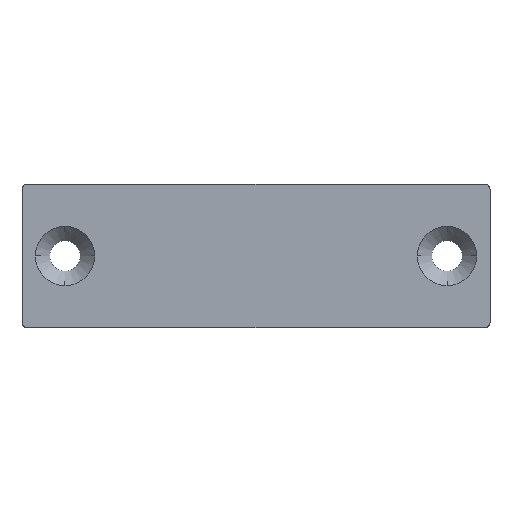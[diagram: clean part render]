
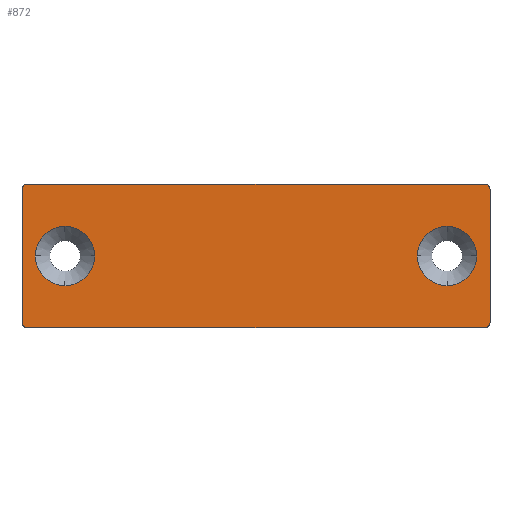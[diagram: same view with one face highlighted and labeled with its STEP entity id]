
A CAD part, top view. The second image highlights one B-rep face of the part: STEP entity #872.
In plain terms, the highlighted planar face has unit normal (0, 0, 1).
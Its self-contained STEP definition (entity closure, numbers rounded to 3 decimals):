
#216=CARTESIAN_POINT('',(-3.1,20.0,2.0));
#217=VERTEX_POINT('',#216);
#233=CARTESIAN_POINT('',(0.,23.1,2.0));
#234=VERTEX_POINT('',#233);
#241=CARTESIAN_POINT('',(0.,20.0,2.0));
#242=DIRECTION('',(0.0,0.0,-1.0));
#243=DIRECTION('',(0.0,1.0,0.0));
#244=AXIS2_PLACEMENT_3D('',#241,#242,#243);
#245=CIRCLE('',#244,3.1);
#246=EDGE_CURVE('',#217,#234,#245,.T.);
#258=CARTESIAN_POINT('',(-3.1,-20.0,2.0));
#259=VERTEX_POINT('',#258);
#275=CARTESIAN_POINT('',(0.,-16.9,2.0));
#276=VERTEX_POINT('',#275);
#283=CARTESIAN_POINT('',(0.,-20.0,2.0));
#284=DIRECTION('',(0.0,0.0,-1.0));
#285=DIRECTION('',(0.0,1.0,0.0));
#286=AXIS2_PLACEMENT_3D('',#283,#284,#285);
#287=CIRCLE('',#286,3.1);
#288=EDGE_CURVE('',#259,#276,#287,.T.);
#300=CARTESIAN_POINT('',(3.1,-20.0,2.0));
#301=VERTEX_POINT('',#300);
#317=CARTESIAN_POINT('',(0.,-23.1,2.0));
#318=VERTEX_POINT('',#317);
#325=CARTESIAN_POINT('',(0.,-20.0,2.0));
#326=DIRECTION('',(0.0,0.0,-1.0));
#327=DIRECTION('',(0.0,1.0,0.0));
#328=AXIS2_PLACEMENT_3D('',#325,#326,#327);
#329=CIRCLE('',#328,3.1);
#330=EDGE_CURVE('',#301,#318,#329,.T.);
#342=CARTESIAN_POINT('',(3.1,20.0,2.0));
#343=VERTEX_POINT('',#342);
#359=CARTESIAN_POINT('',(0.,16.9,2.0));
#360=VERTEX_POINT('',#359);
#367=CARTESIAN_POINT('',(0.,20.0,2.0));
#368=DIRECTION('',(0.0,0.0,-1.0));
#369=DIRECTION('',(0.0,1.0,0.0));
#370=AXIS2_PLACEMENT_3D('',#367,#368,#369);
#371=CIRCLE('',#370,3.1);
#372=EDGE_CURVE('',#343,#360,#371,.T.);
#422=CARTESIAN_POINT('',(0.,20.0,2.0));
#423=DIRECTION('',(0.0,0.0,-1.0));
#424=DIRECTION('',(0.0,1.0,0.0));
#425=AXIS2_PLACEMENT_3D('',#422,#423,#424);
#426=CIRCLE('',#425,3.1);
#427=EDGE_CURVE('',#234,#343,#426,.T.);
#479=CARTESIAN_POINT('',(0.,-20.0,2.0));
#480=DIRECTION('',(0.0,0.0,-1.0));
#481=DIRECTION('',(0.0,1.0,0.0));
#482=AXIS2_PLACEMENT_3D('',#479,#480,#481);
#483=CIRCLE('',#482,3.1);
#484=EDGE_CURVE('',#276,#301,#483,.T.);
#497=CARTESIAN_POINT('',(0.,-20.0,2.0));
#498=DIRECTION('',(0.0,0.0,-1.0));
#499=DIRECTION('',(0.0,1.0,0.0));
#500=AXIS2_PLACEMENT_3D('',#497,#498,#499);
#501=CIRCLE('',#500,3.1);
#502=EDGE_CURVE('',#318,#259,#501,.T.);
#540=CARTESIAN_POINT('',(0.,20.0,2.0));
#541=DIRECTION('',(0.0,0.0,-1.0));
#542=DIRECTION('',(0.0,1.0,0.0));
#543=AXIS2_PLACEMENT_3D('',#540,#541,#542);
#544=CIRCLE('',#543,3.1);
#545=EDGE_CURVE('',#360,#217,#544,.T.);
#582=CARTESIAN_POINT('',(-7.0,24.5,2.0));
#583=VERTEX_POINT('',#582);
#584=CARTESIAN_POINT('',(-7.5,24.0,2.0));
#585=VERTEX_POINT('',#584);
#586=CARTESIAN_POINT('',(-7.0,24.0,2.0));
#587=DIRECTION('',(0.0,0.0,1.0));
#588=DIRECTION('',(0.0,1.0,0.0));
#589=AXIS2_PLACEMENT_3D('',#586,#587,#588);
#590=CIRCLE('',#589,0.5);
#591=EDGE_CURVE('',#583,#585,#590,.T.);
#699=CARTESIAN_POINT('',(7.0,24.5,2.0));
#700=VERTEX_POINT('',#699);
#701=CARTESIAN_POINT('',(7.0,24.5,2.0));
#702=DIRECTION('',(-1.0,0.0,0.0));
#703=VECTOR('',#702,14.0);
#704=LINE('',#701,#703);
#705=EDGE_CURVE('',#700,#583,#704,.T.);
#722=CARTESIAN_POINT('',(7.5,24.0,2.0));
#723=VERTEX_POINT('',#722);
#724=CARTESIAN_POINT('',(7.0,24.0,2.0));
#725=DIRECTION('',(0.0,0.0,1.0));
#726=DIRECTION('',(1.0,0.0,0.0));
#727=AXIS2_PLACEMENT_3D('',#724,#725,#726);
#728=CIRCLE('',#727,0.5);
#729=EDGE_CURVE('',#723,#700,#728,.T.);
#748=CARTESIAN_POINT('',(7.5,-24.0,2.0));
#749=VERTEX_POINT('',#748);
#750=CARTESIAN_POINT('',(7.5,-24.0,2.0));
#751=DIRECTION('',(0.0,1.0,0.0));
#752=VECTOR('',#751,48.0);
#753=LINE('',#750,#752);
#754=EDGE_CURVE('',#749,#723,#753,.T.);
#771=CARTESIAN_POINT('',(7.0,-24.5,2.0));
#772=VERTEX_POINT('',#771);
#773=CARTESIAN_POINT('',(7.0,-24.0,2.0));
#774=DIRECTION('',(0.0,0.0,1.0));
#775=DIRECTION('',(0.0,-1.0,0.0));
#776=AXIS2_PLACEMENT_3D('',#773,#774,#775);
#777=CIRCLE('',#776,0.5);
#778=EDGE_CURVE('',#772,#749,#777,.T.);
#797=CARTESIAN_POINT('',(-7.0,-24.5,2.0));
#798=VERTEX_POINT('',#797);
#799=CARTESIAN_POINT('',(-7.0,-24.5,2.0));
#800=DIRECTION('',(1.0,0.0,0.0));
#801=VECTOR('',#800,14.0);
#802=LINE('',#799,#801);
#803=EDGE_CURVE('',#798,#772,#802,.T.);
#820=CARTESIAN_POINT('',(-7.5,-24.0,2.0));
#821=VERTEX_POINT('',#820);
#822=CARTESIAN_POINT('',(-7.0,-24.0,2.0));
#823=DIRECTION('',(0.0,0.0,1.0));
#824=DIRECTION('',(-1.0,0.0,0.0));
#825=AXIS2_PLACEMENT_3D('',#822,#823,#824);
#826=CIRCLE('',#825,0.5);
#827=EDGE_CURVE('',#821,#798,#826,.T.);
#840=CARTESIAN_POINT('',(-8.25,-26.95,2.0));
#841=DIRECTION('',(0.0,0.0,1.0));
#842=DIRECTION('',(1.0,0.0,0.0));
#843=AXIS2_PLACEMENT_3D('',#840,#841,#842);
#844=PLANE('',#843);
#845=ORIENTED_EDGE('',*,*,#591,.T.);
#846=CARTESIAN_POINT('',(-7.5,24.0,2.0));
#847=DIRECTION('',(0.0,-1.0,0.0));
#848=VECTOR('',#847,48.0);
#849=LINE('',#846,#848);
#850=EDGE_CURVE('',#585,#821,#849,.T.);
#851=ORIENTED_EDGE('',*,*,#850,.T.);
#852=ORIENTED_EDGE('',*,*,#827,.T.);
#853=ORIENTED_EDGE('',*,*,#803,.T.);
#854=ORIENTED_EDGE('',*,*,#778,.T.);
#855=ORIENTED_EDGE('',*,*,#754,.T.);
#856=ORIENTED_EDGE('',*,*,#729,.T.);
#857=ORIENTED_EDGE('',*,*,#705,.T.);
#858=EDGE_LOOP('',(#845,#851,#852,#853,#854,#855,#856,#857));
#859=FACE_OUTER_BOUND('',#858,.T.);
#860=ORIENTED_EDGE('',*,*,#427,.T.);
#861=ORIENTED_EDGE('',*,*,#372,.T.);
#862=ORIENTED_EDGE('',*,*,#545,.T.);
#863=ORIENTED_EDGE('',*,*,#246,.T.);
#864=EDGE_LOOP('',(#860,#861,#862,#863));
#865=FACE_BOUND('',#864,.T.);
#866=ORIENTED_EDGE('',*,*,#484,.T.);
#867=ORIENTED_EDGE('',*,*,#330,.T.);
#868=ORIENTED_EDGE('',*,*,#502,.T.);
#869=ORIENTED_EDGE('',*,*,#288,.T.);
#870=EDGE_LOOP('',(#866,#867,#868,#869));
#871=FACE_BOUND('',#870,.T.);
#872=ADVANCED_FACE('',(#859,#865,#871),#844,.T.);
